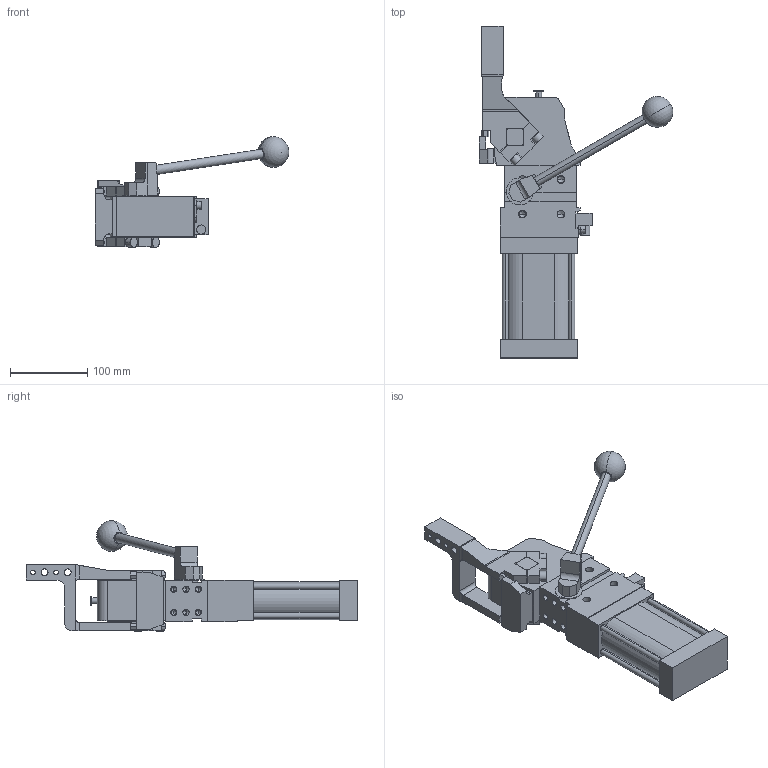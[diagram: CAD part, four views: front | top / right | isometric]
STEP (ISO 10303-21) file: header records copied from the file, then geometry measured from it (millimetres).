
FILE_DESCRIPTION (( 'STEP AP214' ), '1' );
FILE_NAME ('cplm63lath1si1g_107.STEP', '2023-01-26T14:49:38', ( '' ), ( '' ), 'SwSTEP 2.0', 'SolidWorks 2022', '' );
FILE_SCHEMA (( 'AUTOMOTIVE_DESIGN' ));
Length unit declared in the file: millimetre
Products named in the file (5): comando_manuale_cplm_63; leva_h1s_cpl63t; meccanica_cplm_63_tassello_esterno; blocchetto_VEP_0; cplm63lath1si1g_107
Assembly tree (4 placements, depth 2):
  cplm63lath1si1g_107
    meccanica_cplm_63_tassello_esterno
    blocchetto_VEP_0
    leva_h1s_cpl63t
    comando_manuale_cplm_63
Bounding box: 251.06 x 430.5 x 143.5 mm (x, y, z)
Volume: 1896969.8 mm3; surface area: 213461.2 mm2
Topology: 4 solids, 4 shells, 463 faces, 1223 edges, 761 vertices
Faces by surface type: plane 250, cylinder 161, cone 50, sphere 2
Entity records: 15564 total; most frequent: CARTESIAN_POINT 2500, DIRECTION 2454, ORIENTED_EDGE 2344, EDGE_CURVE 1172, AXIS2_PLACEMENT_3D 826, VECTOR 802, LINE 802, VERTEX_POINT 758
